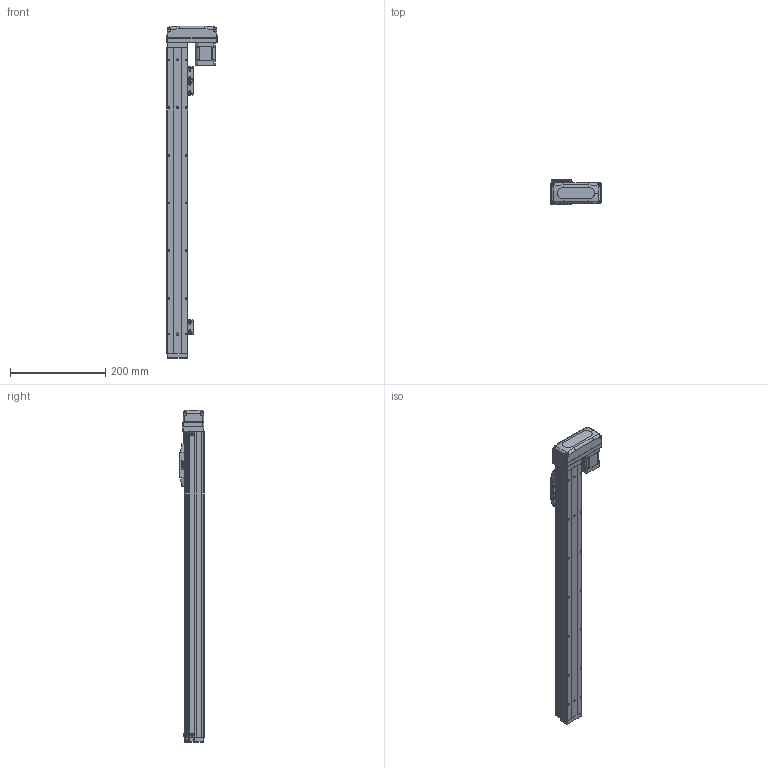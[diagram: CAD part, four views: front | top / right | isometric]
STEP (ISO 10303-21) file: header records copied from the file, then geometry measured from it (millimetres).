
FILE_DESCRIPTION (( 'STEP AP203' ), '1' );
FILE_NAME ('GTH4-500-BL-B42-C4.step', '2023-02-14T00:19:08', ( '微软用户' ), ( '微软中国' ), 'SwSTEP 2.0', 'SolidWorks 2020', '' );
FILE_SCHEMA (( 'CONFIG_CONTROL_DESIGN' ));
Length unit declared in the file: millimetre
Products named in the file (19): BTH50-023; BTH40-013; BTH40-001-50_BTH40-001-500; BTH50-024; GBT 70.3-M3℅6; BTH40-003; GBT 70.1-M3℅6; BTH40-027-1; BTH40-006; GBT96.1-2002 3×0.8; BTH50-026; BTH-M3X5X6; BTH40-022; 42CM06; GBT70.1-2000 M3×16; GBT 70.1-M2.5×6; GTH4-500-BL-B42-C4; BTH50-028; BTH40-004
Assembly tree (47 placements, depth 2):
  GTH4-500-BL-B42-C4
    BTH40-001-50_BTH40-001-500
    BTH40-003
    BTH40-006
    BTH-M3X5X6  x8
    GBT70.1-2000 M3×16  x4
    BTH50-028  x2
    BTH50-023  x3
    BTH50-024  x3
    GBT 70.1-M3℅6  x6
    GBT96.1-2002 3×0.8  x6
    BTH40-022
    GBT 70.1-M2.5×6  x2
    BTH40-004
    BTH40-013
    GBT 70.3-M3℅6  x4
    BTH40-027-1
    BTH50-026
    42CM06
Bounding box: 105 x 52 x 696 mm (x, y, z)
Volume: 1224791.3 mm3; surface area: 238612.2 mm2
Topology: 56 solids, 56 shells, 3319 faces, 7744 edges, 4634 vertices
Faces by surface type: cone 1488, plane 1076, cylinder 577, torus 124, bspline 42, sphere 12
Entity records: 77538 total; most frequent: CARTESIAN_POINT 13985, DIRECTION 13773, ORIENTED_EDGE 12134, EDGE_CURVE 6067, AXIS2_PLACEMENT_3D 5285, VERTEX_POINT 3621, LINE 3203, VECTOR 3203
